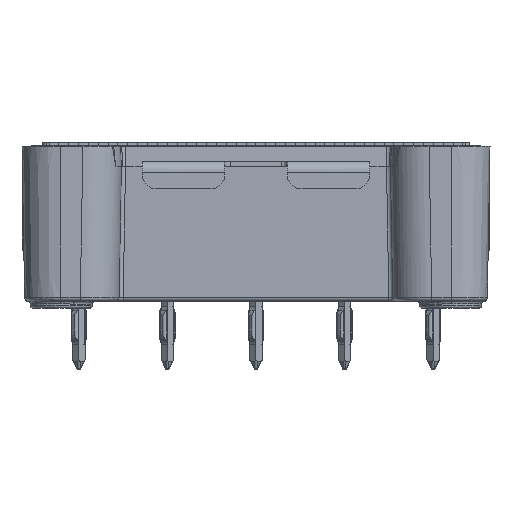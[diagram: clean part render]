
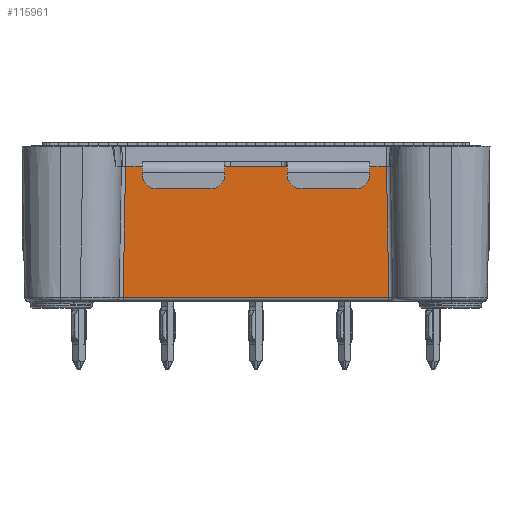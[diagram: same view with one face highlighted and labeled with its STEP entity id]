
A CAD part, left-side view. The second image highlights one B-rep face of the part: STEP entity #115961.
In plain terms, the highlighted planar face has unit normal (-1, 0, -0.018).
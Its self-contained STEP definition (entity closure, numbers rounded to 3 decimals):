
#1724 = CARTESIAN_POINT ( 'NONE',  ( -20.474, -9.7, 10.23 ) ) ;
#3322 = CARTESIAN_POINT ( 'NONE',  ( -20.5, 8.2, 11.7 ) ) ;
#4062 = CARTESIAN_POINT ( 'NONE',  ( -20.304, 9.596, 0.495 ) ) ;
#4276 = LINE ( 'NONE', #118881, #85103 ) ;
#4352 = DIRECTION ( 'NONE',  ( 0., 1., 0. ) ) ;
#10567 = DIRECTION ( 'NONE',  ( 0., -1., 0. ) ) ;
#14804 = VECTOR ( 'NONE', #38166, 1000. ) ;
#16094 = DIRECTION ( 'NONE',  ( 0.017, 0.017, -1. ) ) ;
#22109 = ORIENTED_EDGE ( 'NONE', *, *, #65966, .T. ) ;
#23522 = LINE ( 'NONE', #142145, #76815 ) ;
#24011 = LINE ( 'NONE', #3322, #89361 ) ;
#24067 = VERTEX_POINT ( 'NONE', #50017 ) ;
#27135 = CARTESIAN_POINT ( 'NONE',  ( -20.474, -9.7, 10.23 ) ) ;
#30844 = FACE_OUTER_BOUND ( 'NONE', #49810, .T. ) ;
#34361 = DIRECTION ( 'NONE',  ( 0., -1., 0. ) ) ;
#34795 = CARTESIAN_POINT ( 'NONE',  ( -20.474, -9.7, 10.23 ) ) ;
#35159 = VERTEX_POINT ( 'NONE', #109154 ) ;
#35225 = ORIENTED_EDGE ( 'NONE', *, *, #98732, .F. ) ;
#37546 = CARTESIAN_POINT ( 'NONE',  ( -20.31, -9.59, 0.795 ) ) ;
#38166 = DIRECTION ( 'NONE',  ( 0., 1., 0. ) ) ;
#40687 = EDGE_CURVE ( 'NONE', #90006, #63705, #137674, .T. ) ;
#42879 = ORIENTED_EDGE ( 'NONE', *, *, #78056, .T. ) ;
#44617 = DIRECTION ( 'NONE',  ( 0., 1., 0. ) ) ;
#47028 = ORIENTED_EDGE ( 'NONE', *, *, #114127, .T. ) ;
#48143 = DIRECTION ( 'NONE',  ( -1., 0., -0.017 ) ) ;
#48759 = VERTEX_POINT ( 'NONE', #50541 ) ;
#49810 = EDGE_LOOP ( 'NONE', ( #69457, #22109, #35225, #62315, #42879, #102269, #119408, #47028 ) ) ;
#50017 = CARTESIAN_POINT ( 'NONE',  ( -20.474, 8.2, 10.23 ) ) ;
#50541 = CARTESIAN_POINT ( 'NONE',  ( -20.474, -8.2, 10.23 ) ) ;
#55872 = LINE ( 'NONE', #1724, #83264 ) ;
#61299 = VERTEX_POINT ( 'NONE', #116965 ) ;
#62315 = ORIENTED_EDGE ( 'NONE', *, *, #64506, .T. ) ;
#63705 = VERTEX_POINT ( 'NONE', #97727 ) ;
#64506 = EDGE_CURVE ( 'NONE', #35159, #24067, #24011, .T. ) ;
#65927 = EDGE_CURVE ( 'NONE', #63705, #68013, #23522, .T. ) ;
#65966 = EDGE_CURVE ( 'NONE', #48759, #78538, #112944, .T. ) ;
#68013 = VERTEX_POINT ( 'NONE', #37546 ) ;
#69457 = ORIENTED_EDGE ( 'NONE', *, *, #100215, .T. ) ;
#70760 = VECTOR ( 'NONE', #16094, 1000. ) ;
#70772 = CARTESIAN_POINT ( 'NONE',  ( -20.474, 9.426, 10.23 ) ) ;
#76234 = AXIS2_PLACEMENT_3D ( 'NONE', #82681, #48143, #4352 ) ;
#76815 = VECTOR ( 'NONE', #10567, 1000. ) ;
#78056 = EDGE_CURVE ( 'NONE', #24067, #90006, #55872, .T. ) ;
#78538 = VERTEX_POINT ( 'NONE', #142307 ) ;
#79757 = CARTESIAN_POINT ( 'NONE',  ( -20.5, -8.2, 11.7 ) ) ;
#82681 = CARTESIAN_POINT ( 'NONE',  ( -20.5, -9.7, 11.7 ) ) ;
#82917 = VECTOR ( 'NONE', #34361, 1000. ) ;
#83264 = VECTOR ( 'NONE', #44617, 1000. ) ;
#85103 = VECTOR ( 'NONE', #98109, 1000. ) ;
#89361 = VECTOR ( 'NONE', #135836, 1000. ) ;
#90006 = VERTEX_POINT ( 'NONE', #70772 ) ;
#97727 = CARTESIAN_POINT ( 'NONE',  ( -20.31, 9.59, 0.795 ) ) ;
#98109 = DIRECTION ( 'NONE',  ( -0.017, 0.017, 1. ) ) ;
#98732 = EDGE_CURVE ( 'NONE', #35159, #78538, #124110, .T. ) ;
#100215 = EDGE_CURVE ( 'NONE', #61299, #48759, #141957, .T. ) ;
#102269 = ORIENTED_EDGE ( 'NONE', *, *, #40687, .T. ) ;
#109154 = CARTESIAN_POINT ( 'NONE',  ( -20.474, 8.2, 10.23 ) ) ;
#111557 = PLANE ( 'NONE',  #76234 ) ;
#112944 = LINE ( 'NONE', #79757, #133355 ) ;
#114127 = EDGE_CURVE ( 'NONE', #68013, #61299, #4276, .T. ) ;
#115961 = ADVANCED_FACE ( 'NONE', ( #30844 ), #111557, .T. ) ;
#116965 = CARTESIAN_POINT ( 'NONE',  ( -20.474, -9.426, 10.23 ) ) ;
#118881 = CARTESIAN_POINT ( 'NONE',  ( -20.5, -9.4, 11.695 ) ) ;
#119408 = ORIENTED_EDGE ( 'NONE', *, *, #65927, .T. ) ;
#124110 = LINE ( 'NONE', #34795, #82917 ) ;
#133355 = VECTOR ( 'NONE', #135651, 1000. ) ;
#135651 = DIRECTION ( 'NONE',  ( 0.017, 0., -1. ) ) ;
#135836 = DIRECTION ( 'NONE',  ( -0.017, 0., 1. ) ) ;
#137674 = LINE ( 'NONE', #4062, #70760 ) ;
#141957 = LINE ( 'NONE', #27135, #14804 ) ;
#142145 = CARTESIAN_POINT ( 'NONE',  ( -20.31, -9.7, 0.795 ) ) ;
#142307 = CARTESIAN_POINT ( 'NONE',  ( -20.474, -8.2, 10.23 ) ) ;
